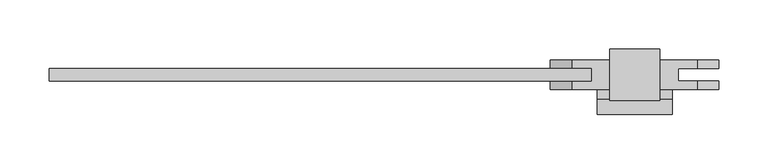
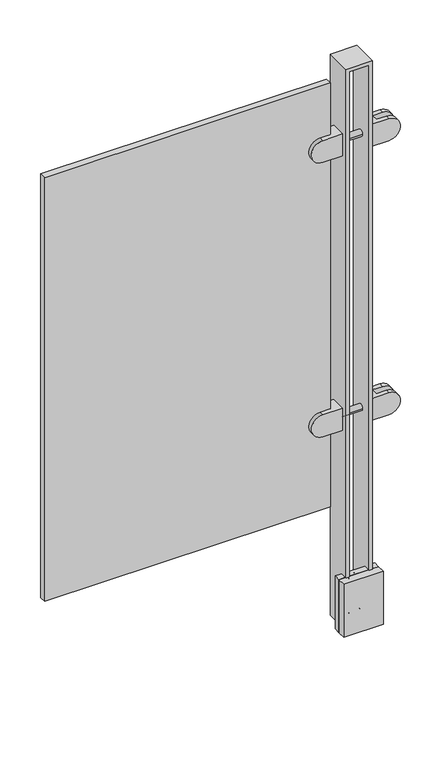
"""IFC4 building model written with IfcOpenShell, lengths in millimetres: proxy geometry, LIVERS_ICN - Glass Panel : LIVERS_ICN - Glass Panel."""

from ifc_helpers import new_model, si_unit, point, frame, origin, place, context, project, spatial, polyline, circle_curve, ellipse_curve, trimmed, outline, extrude, faceted_brep, source, transform, mapped, element, save
from ifc_brep_helpers import plane_surface, cylinder_surface, revolved_surface, advanced_brep


def building_element_proxy_6e90fe54(model_context):
    return source(origin(), model_context, "Body", "SolidModel", [
        advanced_brep(
        [(761.5360146, 55.5624457, 313.5369168), (761.5360146, 25.3999457, 313.5369168), (761.5360146, 25.3999457, 269.0869168), (761.5360146, 55.5624457, 269.0869168), (723.3349206, 55.5624457, 269.0869168), (723.3349206, 55.5624457, 313.5369168), (723.3349206, 25.3999457, 269.0869168), (723.3349206, 34.1311957, 269.0869168), (742.6640953, 34.1311957, 269.0869168), (742.6640953, 46.8311957, 269.0869168), (723.3349206, 46.8311957, 269.0869168), (723.3349206, 25.3999457, 313.5369168), (723.3349206, 46.8311957, 313.5369168), (742.6640953, 46.8311957, 313.5369168), (742.6640953, 34.1311957, 313.5369168), (723.3349206, 34.1311957, 313.5369168)],
        [
            (0, 1),
            (1, 2),
            (2, 3),
            (3, 0),
            (3, 4),
            (4, 5, circle_curve(frame((723.3349206, 55.5624457, 291.3119168), z_axis=(0.0, 1.0, 0.0), x_axis=(0.0, 0.0, -1.0)), 22.225)),
            (5, 0),
            (2, 6),
            (6, 7),
            (7, 8),
            (8, 9),
            (9, 10),
            (10, 4),
            (1, 11),
            (11, 6, circle_curve(frame((723.3349206, 25.3999457, 291.3119168), z_axis=(0.0, -1.0, 0.0), x_axis=(0.0, 0.0, -1.0)), 22.225)),
            (5, 12),
            (12, 13),
            (13, 14),
            (14, 15),
            (15, 11),
            (13, 9),
            (8, 14),
            (12, 10, circle_curve(frame((723.3349206, 46.8311957, 291.3119168), z_axis=(0.0, -1.0, 0.0), x_axis=(0.0, 0.0, -1.0)), 22.225)),
            (7, 15, circle_curve(frame((723.3349206, 34.1311957, 291.3119168), z_axis=(0.0, 1.0, 0.0), x_axis=(0.0, 0.0, -1.0)), 22.225)),
        ],
        [
            plane_surface(frame((761.5360146, 55.5624457, 269.0869168), z_axis=(1.0, 0.0, 0.0), x_axis=(0.0, 0.0, 1.0))),
            plane_surface(frame((701.0329338, 55.5624457, 313.5369168), z_axis=(0.0, 1.0, 0.0), x_axis=(1.0, 0.0, 0.0))),
            plane_surface(frame((701.0329338, 55.5624457, 269.0869168), z_axis=(0.0, 0.0, -1.0), x_axis=(1.0, 0.0, 0.0))),
            plane_surface(frame((701.0329338, 25.3999457, 269.0869168), z_axis=(0.0, -1.0, 0.0), x_axis=(1.0, 0.0, 0.0))),
            plane_surface(frame((701.0329338, 25.3999457, 313.5369168), z_axis=(0.0, 0.0, 1.0), x_axis=(1.0, 0.0, 0.0))),
            plane_surface(frame((742.6640953, 46.8311957, 269.0869168), z_axis=(-1.0, 0.0, 0.0), x_axis=(0.0, 0.0, 1.0))),
            plane_surface(frame((701.0329338, 46.8311957, 313.5369168), z_axis=(0.0, -1.0, 0.0), x_axis=(1.0, 0.0, 0.0))),
            plane_surface(frame((701.0329338, 34.1311957, 269.0869168), z_axis=(0.0, 1.0, 0.0), x_axis=(1.0, 0.0, 0.0))),
            cylinder_surface(frame((723.3349206, 55.5624457, 291.3119168), z_axis=(0.0, 1.0, 0.0), x_axis=(0.0, 0.0, -1.0)), 22.225),
        ],
        [
            (0, [[1, 2, 3, 4]]),
            (1, [[-4, 5, 6, 7]]),
            (2, [[-3, 8, 9, 10, 11, 12, 13, -5]]),
            (3, [[-2, 14, 15, -8]]),
            (4, [[-1, -7, 16, 17, 18, 19, 20, -14]]),
            (5, [[21, -11, 22, -18]]),
            (6, [[-21, -17, 23, -12]]),
            (7, [[-22, -10, 24, -19]]),
            (8, [[-6, -13, -23, -16]]),
            (8, [[-9, -15, -20, -24]]),
        ],
    ),
        advanced_brep(
        [(812.3360146, 55.5624457, 313.5369168), (812.3360146, 55.5624457, 269.0869168), (812.3360146, 25.3999457, 269.0869168), (812.3360146, 25.3999457, 313.5369168), (850.5371085, 55.5624457, 313.5369168), (850.5371085, 55.5624457, 269.0869168), (850.5371085, 46.8311957, 269.0869168), (831.2079338, 46.8311957, 269.0869168), (831.2079338, 34.1311957, 269.0869168), (850.5371085, 34.1311957, 269.0869168), (850.5371085, 25.3999457, 269.0869168), (850.5371085, 25.3999457, 313.5369168), (850.5371085, 34.1311957, 313.5369168), (831.2079338, 34.1311957, 313.5369168), (831.2079338, 46.8311957, 313.5369168), (850.5371085, 46.8311957, 313.5369168)],
        [
            (0, 1),
            (1, 2),
            (2, 3),
            (3, 0),
            (0, 4),
            (4, 5, circle_curve(frame((850.5371085, 55.5624457, 291.3119168), z_axis=(0.0, 1.0, 0.0), x_axis=(0.0, 0.0, -1.0)), 22.225)),
            (5, 1),
            (5, 6),
            (6, 7),
            (7, 8),
            (8, 9),
            (9, 10),
            (10, 2),
            (10, 11, circle_curve(frame((850.5371085, 25.3999457, 291.3119168), z_axis=(0.0, -1.0, 0.0), x_axis=(0.0, 0.0, -1.0)), 22.225)),
            (11, 3),
            (11, 12),
            (12, 13),
            (13, 14),
            (14, 15),
            (15, 4),
            (13, 8),
            (7, 14),
            (6, 15, circle_curve(frame((850.5371085, 46.8311957, 291.3119168), z_axis=(0.0, -1.0, 0.0), x_axis=(0.0, 0.0, -1.0)), 22.225)),
            (12, 9, circle_curve(frame((850.5371085, 34.1311957, 291.3119168), z_axis=(0.0, 1.0, 0.0), x_axis=(0.0, 0.0, -1.0)), 22.225)),
        ],
        [
            plane_surface(frame((812.3360146, 55.5624457, 269.0869168), z_axis=(-1.0, 0.0, 0.0), x_axis=(0.0, 0.0, 1.0))),
            plane_surface(frame((872.8390953, 55.5624457, 313.5369168), z_axis=(0.0, 1.0, 0.0), x_axis=(-1.0, 0.0, 0.0))),
            plane_surface(frame((872.8390953, 55.5624457, 269.0869168), z_axis=(0.0, 0.0, -1.0), x_axis=(-1.0, 0.0, 0.0))),
            plane_surface(frame((872.8390953, 25.3999457, 269.0869168), z_axis=(0.0, -1.0, 0.0), x_axis=(-1.0, 0.0, 0.0))),
            plane_surface(frame((872.8390953, 25.3999457, 313.5369168), z_axis=(0.0, 0.0, 1.0), x_axis=(-1.0, 0.0, 0.0))),
            plane_surface(frame((831.2079338, 46.8311957, 269.0869168), z_axis=(1.0, 0.0, 0.0), x_axis=(0.0, 0.0, 1.0))),
            plane_surface(frame((872.8390953, 46.8311957, 313.5369168), z_axis=(0.0, -1.0, 0.0), x_axis=(-1.0, 0.0, 0.0))),
            plane_surface(frame((872.8390953, 34.1311957, 269.0869168), z_axis=(0.0, 1.0, 0.0), x_axis=(-1.0, 0.0, 0.0))),
            cylinder_surface(frame((850.5371085, 55.5624457, 291.3119168), z_axis=(0.0, 1.0, 0.0), x_axis=(0.0, 0.0, -1.0)), 22.225),
        ],
        [
            (0, [[1, 2, 3, 4]]),
            (1, [[5, 6, 7, -1]]),
            (2, [[-7, 8, 9, 10, 11, 12, 13, -2]]),
            (3, [[-13, 14, 15, -3]]),
            (4, [[-15, 16, 17, 18, 19, 20, -5, -4]]),
            (5, [[-18, 21, -10, 22]]),
            (6, [[-9, 23, -19, -22]]),
            (7, [[-17, 24, -11, -21]]),
            (8, [[-20, -23, -8, -6]]),
            (8, [[-24, -16, -14, -12]]),
        ],
    ),
        advanced_brep(
        [(761.5360146, 55.5624457, 872.3369168), (761.5360146, 25.3999457, 872.3369168), (761.5360146, 25.3999457, 827.8869168), (761.5360146, 55.5624457, 827.8869168), (723.3349206, 55.5624457, 827.8869168), (723.3349206, 55.5624457, 872.3369168), (723.3349206, 25.3999457, 827.8869168), (723.3349206, 34.1311957, 827.8869168), (742.6640953, 34.1311957, 827.8869168), (742.6640953, 46.8311957, 827.8869168), (723.3349206, 46.8311957, 827.8869168), (723.3349206, 25.3999457, 872.3369168), (723.3349206, 46.8311957, 872.3369168), (742.6640953, 46.8311957, 872.3369168), (742.6640953, 34.1311957, 872.3369168), (723.3349206, 34.1311957, 872.3369168)],
        [
            (0, 1),
            (1, 2),
            (2, 3),
            (3, 0),
            (3, 4),
            (4, 5, circle_curve(frame((723.3349206, 55.5624457, 850.1119168), z_axis=(0.0, 1.0, 0.0), x_axis=(0.0, 0.0, -1.0)), 22.225)),
            (5, 0),
            (2, 6),
            (6, 7),
            (7, 8),
            (8, 9),
            (9, 10),
            (10, 4),
            (1, 11),
            (11, 6, circle_curve(frame((723.3349206, 25.3999457, 850.1119168), z_axis=(0.0, -1.0, 0.0), x_axis=(0.0, 0.0, -1.0)), 22.225)),
            (5, 12),
            (12, 13),
            (13, 14),
            (14, 15),
            (15, 11),
            (13, 9),
            (8, 14),
            (12, 10, circle_curve(frame((723.3349206, 46.8311957, 850.1119168), z_axis=(0.0, -1.0, 0.0), x_axis=(0.0, 0.0, -1.0)), 22.225)),
            (7, 15, circle_curve(frame((723.3349206, 34.1311957, 850.1119168), z_axis=(0.0, 1.0, 0.0), x_axis=(0.0, 0.0, -1.0)), 22.225)),
        ],
        [
            plane_surface(frame((761.5360146, 55.5624457, 827.8869168), z_axis=(1.0, 0.0, 0.0), x_axis=(0.0, 0.0, 1.0))),
            plane_surface(frame((701.0329338, 55.5624457, 872.3369168), z_axis=(0.0, 1.0, 0.0), x_axis=(1.0, 0.0, 0.0))),
            plane_surface(frame((701.0329338, 55.5624457, 827.8869168), z_axis=(0.0, 0.0, -1.0), x_axis=(1.0, 0.0, 0.0))),
            plane_surface(frame((701.0329338, 25.3999457, 827.8869168), z_axis=(0.0, -1.0, 0.0), x_axis=(1.0, 0.0, 0.0))),
            plane_surface(frame((701.0329338, 25.3999457, 872.3369168), z_axis=(0.0, 0.0, 1.0), x_axis=(1.0, 0.0, 0.0))),
            plane_surface(frame((742.6640953, 46.8311957, 827.8869168), z_axis=(-1.0, 0.0, 0.0), x_axis=(0.0, 0.0, 1.0))),
            plane_surface(frame((701.0329338, 46.8311957, 872.3369168), z_axis=(0.0, -1.0, 0.0), x_axis=(1.0, 0.0, 0.0))),
            plane_surface(frame((701.0329338, 34.1311957, 827.8869168), z_axis=(0.0, 1.0, 0.0), x_axis=(1.0, 0.0, 0.0))),
            cylinder_surface(frame((723.3349206, 55.5624457, 850.1119168), z_axis=(0.0, 1.0, 0.0), x_axis=(0.0, 0.0, -1.0)), 22.225),
        ],
        [
            (0, [[1, 2, 3, 4]]),
            (1, [[-4, 5, 6, 7]]),
            (2, [[-3, 8, 9, 10, 11, 12, 13, -5]]),
            (3, [[-2, 14, 15, -8]]),
            (4, [[-1, -7, 16, 17, 18, 19, 20, -14]]),
            (5, [[21, -11, 22, -18]]),
            (6, [[-21, -17, 23, -12]]),
            (7, [[-22, -10, 24, -19]]),
            (8, [[-6, -13, -23, -16]]),
            (8, [[-9, -15, -20, -24]]),
        ],
    ),
        advanced_brep(
        [(812.3360146, 55.5624457, 872.3369168), (812.3360146, 55.5624457, 827.8869168), (812.3360146, 25.3999457, 827.8869168), (812.3360146, 25.3999457, 872.3369168), (850.5371085, 55.5624457, 872.3369168), (850.5371085, 55.5624457, 827.8869168), (850.5371085, 46.8311957, 827.8869168), (831.2079338, 46.8311957, 827.8869168), (831.2079338, 34.1311957, 827.8869168), (850.5371085, 34.1311957, 827.8869168), (850.5371085, 25.3999457, 827.8869168), (850.5371085, 25.3999457, 872.3369168), (850.5371085, 34.1311957, 872.3369168), (831.2079338, 34.1311957, 872.3369168), (831.2079338, 46.8311957, 872.3369168), (850.5371085, 46.8311957, 872.3369168)],
        [
            (0, 1),
            (1, 2),
            (2, 3),
            (3, 0),
            (0, 4),
            (4, 5, circle_curve(frame((850.5371085, 55.5624457, 850.1119168), z_axis=(0.0, 1.0, 0.0), x_axis=(0.0, 0.0, -1.0)), 22.225)),
            (5, 1),
            (5, 6),
            (6, 7),
            (7, 8),
            (8, 9),
            (9, 10),
            (10, 2),
            (10, 11, circle_curve(frame((850.5371085, 25.3999457, 850.1119168), z_axis=(0.0, -1.0, 0.0), x_axis=(0.0, 0.0, -1.0)), 22.225)),
            (11, 3),
            (11, 12),
            (12, 13),
            (13, 14),
            (14, 15),
            (15, 4),
            (13, 8),
            (7, 14),
            (6, 15, circle_curve(frame((850.5371085, 46.8311957, 850.1119168), z_axis=(0.0, -1.0, 0.0), x_axis=(0.0, 0.0, -1.0)), 22.225)),
            (12, 9, circle_curve(frame((850.5371085, 34.1311957, 850.1119168), z_axis=(0.0, 1.0, 0.0), x_axis=(0.0, 0.0, -1.0)), 22.225)),
        ],
        [
            plane_surface(frame((812.3360146, 55.5624457, 827.8869168), z_axis=(-1.0, 0.0, 0.0), x_axis=(0.0, 0.0, 1.0))),
            plane_surface(frame((872.8390953, 55.5624457, 872.3369168), z_axis=(0.0, 1.0, 0.0), x_axis=(-1.0, 0.0, 0.0))),
            plane_surface(frame((872.8390953, 55.5624457, 827.8869168), z_axis=(0.0, 0.0, -1.0), x_axis=(-1.0, 0.0, 0.0))),
            plane_surface(frame((872.8390953, 25.3999457, 827.8869168), z_axis=(0.0, -1.0, 0.0), x_axis=(-1.0, 0.0, 0.0))),
            plane_surface(frame((872.8390953, 25.3999457, 872.3369168), z_axis=(0.0, 0.0, 1.0), x_axis=(-1.0, 0.0, 0.0))),
            plane_surface(frame((831.2079338, 46.8311957, 827.8869168), z_axis=(1.0, 0.0, 0.0), x_axis=(0.0, 0.0, 1.0))),
            plane_surface(frame((872.8390953, 46.8311957, 872.3369168), z_axis=(0.0, -1.0, 0.0), x_axis=(-1.0, 0.0, 0.0))),
            plane_surface(frame((872.8390953, 34.1311957, 827.8869168), z_axis=(0.0, 1.0, 0.0), x_axis=(-1.0, 0.0, 0.0))),
            cylinder_surface(frame((850.5371085, 55.5624457, 850.1119168), z_axis=(0.0, 1.0, 0.0), x_axis=(0.0, 0.0, -1.0)), 22.225),
        ],
        [
            (0, [[1, 2, 3, 4]]),
            (1, [[5, 6, 7, -1]]),
            (2, [[-7, 8, 9, 10, 11, 12, 13, -2]]),
            (3, [[-13, 14, 15, -3]]),
            (4, [[-15, 16, 17, 18, 19, 20, -5, -4]]),
            (5, [[-18, 21, -10, 22]]),
            (6, [[-9, 23, -19, -22]]),
            (7, [[-17, 24, -11, -21]]),
            (8, [[-20, -23, -8, -6]]),
            (8, [[-24, -16, -14, -12]]),
        ],
    ),
        advanced_brep(
        [(786.9360146, 28.575, -125.3541166), (786.9360146, 29.7562407, -125.3541166), (786.9360146, 29.7562407, -103.1291055), (786.9360146, 28.575, -103.1291055), (786.9360146, 28.575, -114.2416111), (786.9360146, 32.325, -119.8541166), (786.9360146, 30.8816229, -114.2416111), (786.9360146, 32.325, -108.6291055), (786.9360146, 34.8740117, -119.8541166), (786.9360146, 34.8740117, -108.6291055), (786.9360146, 33.8500285, -122.802123), (786.9360146, 33.8500285, -105.6810991), (786.9360146, 31.8562692, -124.5603989), (786.9360146, 31.8562692, -103.9228232)],
        [
            (0, 1),
            (1, 2, circle_curve(frame((786.9360146, 29.7562407, -114.2416111), z_axis=(0.0, -1.0, 0.0), x_axis=(0.0, 0.0, 1.0)), 11.1125056)),
            (2, 3),
            (3, 0, circle_curve(frame((786.9360146, 28.575, -114.2416111), z_axis=(0.0, 1.0, 0.0), x_axis=(0.0, 0.0, 1.0)), 11.1125056)),
            (2, 1, circle_curve(frame((786.9360146, 29.7562407, -114.2416111), z_axis=(0.0, -1.0, 0.0), x_axis=(0.0, 0.0, 1.0)), 11.1125056)),
            (0, 3, circle_curve(frame((786.9360146, 28.575, -114.2416111), z_axis=(0.0, 1.0, 0.0), x_axis=(0.0, 0.0, 1.0)), 11.1125056)),
            (4, 0),
            (3, 4),
            (5, 6),
            (6, 7),
            (7, 5, circle_curve(frame((786.9360146, 32.325, -114.2416111), z_axis=(0.0, 1.0, 0.0), x_axis=(0.0, 0.0, 1.0)), 5.6125056)),
            (5, 7, circle_curve(frame((786.9360146, 32.325, -114.2416111), z_axis=(0.0, 1.0, 0.0), x_axis=(0.0, 0.0, 1.0)), 5.6125056)),
            (8, 5),
            (7, 9),
            (9, 8, circle_curve(frame((786.9360146, 34.8740117, -114.2416111), z_axis=(0.0, 1.0, 0.0), x_axis=(0.0, 0.0, 1.0)), 5.6125056)),
            (8, 9, circle_curve(frame((786.9360146, 34.8740117, -114.2416111), z_axis=(0.0, 1.0, 0.0), x_axis=(0.0, 0.0, 1.0)), 5.6125056)),
            (10, 8, circle_curve(frame((786.9360146, 31.75, -120.4208407), z_axis=(1.0, 0.0, 0.0), x_axis=(0.0, -1.0, 0.0)), 3.175)),
            (9, 11, circle_curve(frame((786.9360146, 31.75, -108.0623814), z_axis=(1.0, 0.0, 0.0), x_axis=(0.0, -1.0, 0.0)), 3.175)),
            (11, 10, circle_curve(frame((786.9360146, 33.8500285, -114.2416111), z_axis=(0.0, 1.0, 0.0), x_axis=(0.0, 0.0, 1.0)), 8.560512)),
            (10, 11, circle_curve(frame((786.9360146, 33.8500285, -114.2416111), z_axis=(0.0, 1.0, 0.0), x_axis=(0.0, 0.0, 1.0)), 8.560512)),
            (12, 10),
            (11, 13),
            (13, 12, circle_curve(frame((786.9360146, 31.8562692, -114.2416111), z_axis=(0.0, 1.0, 0.0), x_axis=(0.0, 0.0, 1.0)), 10.3187879)),
            (12, 13, circle_curve(frame((786.9360146, 31.8562692, -114.2416111), z_axis=(0.0, 1.0, 0.0), x_axis=(0.0, 0.0, 1.0)), 10.3187879)),
            (1, 12, circle_curve(frame((786.9360146, 29.7562407, -122.1791166), z_axis=(1.0, 0.0, 0.0), x_axis=(0.0, -1.0, 0.0)), 3.175)),
            (13, 2, circle_curve(frame((786.9360146, 29.7562407, -106.3041055), z_axis=(1.0, 0.0, 0.0), x_axis=(0.0, -1.0, 0.0)), 3.175)),
        ],
        [
            cylinder_surface(frame((786.9360146, 28.575, -114.2416111), z_axis=(0.0, -1.0, 0.0), x_axis=(0.0, 0.0, 1.0)), 11.1125056),
            plane_surface(frame((786.9360146, 28.575, -114.2416111), z_axis=(0.0, -1.0, 0.0), x_axis=(0.0, 0.0, 1.0))),
            revolved_surface(polyline([(786.9360146, 30.8816229, -114.2416111), (786.9360146, 32.325, -108.6291055)]), (786.9360146, 28.575, -114.2416111), (0.0, -1.0, 0.0)),
            revolved_surface(polyline([(786.9360146, 32.325, -108.6291055), (786.9360146, 34.8740117, -108.6291055)]), (786.9360146, 28.575, -114.2416111), (0.0, -1.0, 0.0)),
            revolved_surface(trimmed(ellipse_curve(frame((786.9360146, 31.75, -108.0623814), z_axis=(1.0, 0.0, 0.0), x_axis=(0.0, -1.0, 0.0)), 3.175, 3.175), [point((786.9360146, 34.8740117, -108.6291055))], [point((786.9360146, 33.8500285, -105.6810991))], True, "CARTESIAN"), (786.9360146, 28.575, -114.2416111), (0.0, -1.0, 0.0)),
            revolved_surface(polyline([(786.9360146, 33.8500285, -105.6810991), (786.9360146, 31.8562692, -103.9228232)]), (786.9360146, 28.575, -114.2416111), (0.0, -1.0, 0.0)),
            revolved_surface(trimmed(ellipse_curve(frame((786.9360146, 29.7562407, -106.3041055), z_axis=(1.0, 0.0, 0.0), x_axis=(0.0, -1.0, 0.0)), 3.175, 3.175), [point((786.9360146, 31.8562692, -103.9228232))], [point((786.9360146, 29.7562407, -103.1291055))], True, "CARTESIAN"), (786.9360146, 28.575, -114.2416111), (0.0, -1.0, 0.0)),
        ],
        [
            (0, [[1, 2, 3, 4]]),
            (0, [[-3, 5, -1, 6]]),
            (1, [[7, -4, 8]]),
            (1, [[-8, -6, -7]]),
            (2, [[9, 10, 11]]),
            (2, [[-10, -9, 12]]),
            (3, [[13, -11, 14, 15]]),
            (3, [[-14, -12, -13, 16]]),
            (4, [[17, -15, 18, 19]]),
            (4, [[-18, -16, -17, 20]]),
            (5, [[21, -19, 22, 23]]),
            (5, [[-22, -20, -21, 24]]),
            (6, [[25, -23, 26, -2]]),
            (6, [[-26, -24, -25, -5]]),
        ],
    ),
        advanced_brep(
        [(786.9360146, 28.575, -55.5041166), (786.9360146, 29.7562407, -55.5041166), (786.9360146, 29.7562407, -33.2791055), (786.9360146, 28.575, -33.2791055), (786.9360146, 28.575, -44.3916111), (786.9360146, 33.8500285, -52.952123), (786.9360146, 34.8740117, -50.0041166), (786.9360146, 34.8740117, -38.7791055), (786.9360146, 33.8500285, -35.8310991), (786.9360146, 31.8562692, -54.7103989), (786.9360146, 31.8562692, -34.0728232), (786.9360146, 32.325, -50.0041166), (786.9360146, 30.8816229, -44.3916111), (786.9360146, 32.325, -38.7791055)],
        [
            (0, 1),
            (1, 2, circle_curve(frame((786.9360146, 29.7562407, -44.3916111), z_axis=(0.0, -1.0, 0.0), x_axis=(0.0, 0.0, 1.0)), 11.1125056)),
            (2, 3),
            (3, 0, circle_curve(frame((786.9360146, 28.575, -44.3916111), z_axis=(0.0, 1.0, 0.0), x_axis=(0.0, 0.0, 1.0)), 11.1125056)),
            (2, 1, circle_curve(frame((786.9360146, 29.7562407, -44.3916111), z_axis=(0.0, -1.0, 0.0), x_axis=(0.0, 0.0, 1.0)), 11.1125056)),
            (0, 3, circle_curve(frame((786.9360146, 28.575, -44.3916111), z_axis=(0.0, 1.0, 0.0), x_axis=(0.0, 0.0, 1.0)), 11.1125056)),
            (4, 0),
            (3, 4),
            (5, 6, circle_curve(frame((786.9360146, 31.75, -50.5708407), z_axis=(1.0, 0.0, 0.0), x_axis=(0.0, -1.0, 0.0)), 3.175)),
            (6, 7, circle_curve(frame((786.9360146, 34.8740117, -44.3916111), z_axis=(0.0, -1.0, 0.0), x_axis=(0.0, 0.0, 1.0)), 5.6125056)),
            (7, 8, circle_curve(frame((786.9360146, 31.75, -38.2123814), z_axis=(1.0, 0.0, 0.0), x_axis=(0.0, -1.0, 0.0)), 3.175)),
            (8, 5, circle_curve(frame((786.9360146, 33.8500285, -44.3916111), z_axis=(0.0, 1.0, 0.0), x_axis=(0.0, 0.0, 1.0)), 8.560512)),
            (7, 6, circle_curve(frame((786.9360146, 34.8740117, -44.3916111), z_axis=(0.0, -1.0, 0.0), x_axis=(0.0, 0.0, 1.0)), 5.6125056)),
            (5, 8, circle_curve(frame((786.9360146, 33.8500285, -44.3916111), z_axis=(0.0, 1.0, 0.0), x_axis=(0.0, 0.0, 1.0)), 8.560512)),
            (9, 5),
            (8, 10),
            (10, 9, circle_curve(frame((786.9360146, 31.8562692, -44.3916111), z_axis=(0.0, 1.0, 0.0), x_axis=(0.0, 0.0, 1.0)), 10.3187879)),
            (9, 10, circle_curve(frame((786.9360146, 31.8562692, -44.3916111), z_axis=(0.0, 1.0, 0.0), x_axis=(0.0, 0.0, 1.0)), 10.3187879)),
            (1, 9, circle_curve(frame((786.9360146, 29.7562407, -52.3291166), z_axis=(1.0, 0.0, 0.0), x_axis=(0.0, -1.0, 0.0)), 3.175)),
            (10, 2, circle_curve(frame((786.9360146, 29.7562407, -36.4541055), z_axis=(1.0, 0.0, 0.0), x_axis=(0.0, -1.0, 0.0)), 3.175)),
            (11, 12),
            (12, 13),
            (13, 11, circle_curve(frame((786.9360146, 32.325, -44.3916111), z_axis=(0.0, 1.0, 0.0), x_axis=(0.0, 0.0, 1.0)), 5.6125056)),
            (11, 13, circle_curve(frame((786.9360146, 32.325, -44.3916111), z_axis=(0.0, 1.0, 0.0), x_axis=(0.0, 0.0, 1.0)), 5.6125056)),
            (6, 11),
            (13, 7),
        ],
        [
            cylinder_surface(frame((786.9360146, 28.575, -44.3916111), z_axis=(0.0, -1.0, 0.0), x_axis=(0.0, 0.0, 1.0)), 11.1125056),
            plane_surface(frame((786.9360146, 28.575, -44.3916111), z_axis=(0.0, -1.0, 0.0), x_axis=(0.0, 0.0, 1.0))),
            revolved_surface(trimmed(ellipse_curve(frame((786.9360146, 31.75, -38.2123814), z_axis=(1.0, 0.0, 0.0), x_axis=(0.0, -1.0, 0.0)), 3.175, 3.175), [point((786.9360146, 34.8740117, -38.7791055))], [point((786.9360146, 33.8500285, -35.8310991))], True, "CARTESIAN"), (786.9360146, 28.575, -44.3916111), (0.0, -1.0, 0.0)),
            revolved_surface(polyline([(786.9360146, 33.8500285, -35.8310991), (786.9360146, 31.8562692, -34.0728232)]), (786.9360146, 28.575, -44.3916111), (0.0, -1.0, 0.0)),
            revolved_surface(trimmed(ellipse_curve(frame((786.9360146, 29.7562407, -36.4541055), z_axis=(1.0, 0.0, 0.0), x_axis=(0.0, -1.0, 0.0)), 3.175, 3.175), [point((786.9360146, 31.8562692, -34.0728232))], [point((786.9360146, 29.7562407, -33.2791055))], True, "CARTESIAN"), (786.9360146, 28.575, -44.3916111), (0.0, -1.0, 0.0)),
            revolved_surface(polyline([(786.9360146, 30.8816229, -44.3916111), (786.9360146, 32.325, -38.7791055)]), (786.9360146, 28.575, -44.3916111), (0.0, -1.0, 0.0)),
            revolved_surface(polyline([(786.9360146, 32.325, -38.7791055), (786.9360146, 34.8740117, -38.7791055)]), (786.9360146, 28.575, -44.3916111), (0.0, -1.0, 0.0)),
        ],
        [
            (0, [[1, 2, 3, 4]]),
            (0, [[-3, 5, -1, 6]]),
            (1, [[7, -4, 8]]),
            (1, [[-8, -6, -7]]),
            (2, [[9, 10, 11, 12]]),
            (2, [[-11, 13, -9, 14]]),
            (3, [[15, -12, 16, 17]]),
            (3, [[-16, -14, -15, 18]]),
            (4, [[19, -17, 20, -2]]),
            (4, [[-20, -18, -19, -5]]),
            (5, [[21, 22, 23]]),
            (5, [[-22, -21, 24]]),
            (6, [[25, -23, 26, -10]]),
            (6, [[-26, -24, -25, -13]]),
        ],
    ),
        faceted_brep([(812.3360146, 14.2874305, 1010.2680522), (812.3360146, 14.2874305, -133.2916111), (812.3360146, 15.875, -133.2916111), (812.3360146, 15.875, -25.3416111), (812.3360146, 28.575, -25.3416111), (812.3360146, 28.575, -133.2916111), (812.3360146, 66.6749609, -133.2916111), (812.3360146, 66.6749609, 1010.2680522), (805.9860146, 66.6749609, -133.2916111), (805.9860146, 28.575, -133.2916111), (805.9860146, 28.575, -25.3416111), (805.9860146, 15.875, -25.3416111), (805.9860146, 15.875, -133.2916111), (805.9860146, 14.2874305, -133.2916111), (805.9860146, 14.2874305, 1003.9180522), (805.9860146, 66.6749609, 1003.9180522), (748.8360146, 28.575, -133.2916111), (761.5360146, 28.575, -133.2916111), (761.5360146, 66.6749609, -133.2916111), (767.8860146, 66.6749609, -133.2916111), (767.8860146, 28.575, -133.2916111), (825.0360146, 28.575, -133.2916111), (825.0360146, 15.875, -133.2916111), (767.8860146, 15.875, -133.2916111), (767.8860146, 14.2874305, -133.2916111), (761.5360146, 14.2874305, -133.2916111), (761.5360146, 15.875, -133.2916111), (748.8360146, 15.875, -133.2916111), (761.5360146, 14.2874305, 1010.2680522), (767.8860146, 14.2874305, 1003.9180522), (761.5360146, 66.6749609, 1010.2680522), (767.8860146, 66.6749609, 1003.9180522), (767.8860146, 15.875, -25.3416111), (767.8860146, 28.575, -25.3416111), (761.5360146, 28.575, -25.3416111), (761.5360146, 15.875, -25.3416111), (825.0360146, 28.575, -25.3416111), (748.8360146, 28.575, -25.3416111), (748.8360146, 15.875, -25.3416111), (825.0360146, 15.875, -25.3416111)], [[[0, 1, 2, 3, 4, 5, 6, 7]], [[8, 9, 10, 11, 12, 13, 14, 15]], [[16, 17, 18, 19, 20, 9, 8, 6, 5, 21, 22, 2, 1, 13, 12, 23, 24, 25, 26, 27]], [[1, 0, 28, 25, 24, 29, 14, 13]], [[7, 30, 28, 0]], [[8, 15, 31, 19, 18, 30, 7, 6]], [[24, 23, 32, 33, 20, 19, 31, 29]], [[14, 29, 31, 15]], [[30, 18, 17, 34, 35, 26, 25, 28]], [[20, 33, 10, 9]], [[21, 5, 4, 36]], [[37, 34, 17, 16]], [[12, 11, 32, 23]], [[27, 26, 35, 38]], [[39, 3, 2, 22]], [[36, 39, 22, 21]], [[33, 32, 11, 10]], [[36, 4, 3, 39]], [[38, 35, 34, 37]], [[16, 27, 38, 37]]]),
        extrude(outline(polyline([(825.0360146, 15.875), (825.0360146, 0.0), (748.8360146, 0.0), (748.8360146, 15.875), (825.0360146, 15.875)])), frame((0.0, 0.0, -133.2916111), z_axis=(0.0, 0.0, 1.0), x_axis=(1.0, 0.0, 0.0)), (0.0, 0.0, 1.0), 107.95),
        advanced_brep(
        [(767.8860146, 41.2749421, 291.3119224), (767.8860146, 47.5989918, 291.3119224), (767.8860146, 34.9508924, 291.3119224), (806.0000008, 47.5989918, 291.3119224), (806.0000008, 41.2749421, 291.3119224), (806.0000008, 34.9508924, 291.3119224)],
        [
            (0, 1),
            (1, 2, circle_curve(frame((767.8860146, 41.2749421, 291.3119224), z_axis=(-1.0, 0.0, 0.0), x_axis=(0.0, -1.0, 0.0)), 6.3240497)),
            (2, 0),
            (2, 1, circle_curve(frame((767.8860146, 41.2749421, 291.3119224), z_axis=(-1.0, 0.0, 0.0), x_axis=(0.0, -1.0, 0.0)), 6.3240497)),
            (3, 4),
            (4, 5),
            (5, 3, circle_curve(frame((806.0000008, 41.2749421, 291.3119224), z_axis=(1.0, 0.0, 0.0), x_axis=(0.0, -1.0, 0.0)), 6.3240497)),
            (3, 5, circle_curve(frame((806.0000008, 41.2749421, 291.3119224), z_axis=(1.0, 0.0, 0.0), x_axis=(0.0, -1.0, 0.0)), 6.3240497)),
            (1, 3),
            (5, 2),
        ],
        [
            plane_surface(frame((767.8860146, 41.2749421, 291.3119224), z_axis=(-1.0, 0.0, 0.0), x_axis=(0.0, -1.0, 0.0))),
            plane_surface(frame((806.0000008, 41.2749421, 291.3119224), z_axis=(1.0, 0.0, 0.0), x_axis=(0.0, -1.0, 0.0))),
            cylinder_surface(frame((767.8860146, 41.2749421, 291.3119224), z_axis=(-1.0, 0.0, 0.0), x_axis=(0.0, -1.0, 0.0)), 6.3240497),
        ],
        [
            (0, [[1, 2, 3]]),
            (0, [[-3, 4, -1]]),
            (1, [[5, 6, 7]]),
            (1, [[-6, -5, 8]]),
            (2, [[9, -7, 10, -2]]),
            (2, [[-10, -8, -9, -4]]),
        ],
    ),
        advanced_brep(
        [(767.8860146, 41.2749421, 850.1119224), (767.8860146, 47.5989918, 850.1119224), (767.8860146, 34.9508924, 850.1119224), (806.0000008, 47.5989918, 850.1119224), (806.0000008, 41.2749421, 850.1119224), (806.0000008, 34.9508924, 850.1119224)],
        [
            (0, 1),
            (1, 2, circle_curve(frame((767.8860146, 41.2749421, 850.1119224), z_axis=(-1.0, 0.0, 0.0), x_axis=(0.0, -1.0, 0.0)), 6.3240497)),
            (2, 0),
            (2, 1, circle_curve(frame((767.8860146, 41.2749421, 850.1119224), z_axis=(-1.0, 0.0, 0.0), x_axis=(0.0, -1.0, 0.0)), 6.3240497)),
            (3, 4),
            (4, 5),
            (5, 3, circle_curve(frame((806.0000008, 41.2749421, 850.1119224), z_axis=(1.0, 0.0, 0.0), x_axis=(0.0, -1.0, 0.0)), 6.3240497)),
            (3, 5, circle_curve(frame((806.0000008, 41.2749421, 850.1119224), z_axis=(1.0, 0.0, 0.0), x_axis=(0.0, -1.0, 0.0)), 6.3240497)),
            (1, 3),
            (5, 2),
        ],
        [
            plane_surface(frame((767.8860146, 41.2749421, 850.1119224), z_axis=(-1.0, 0.0, 0.0), x_axis=(0.0, -1.0, 0.0))),
            plane_surface(frame((806.0000008, 41.2749421, 850.1119224), z_axis=(1.0, 0.0, 0.0), x_axis=(0.0, -1.0, 0.0))),
            cylinder_surface(frame((767.8860146, 41.2749421, 850.1119224), z_axis=(-1.0, 0.0, 0.0), x_axis=(0.0, -1.0, 0.0)), 6.3240497),
        ],
        [
            (0, [[1, 2, 3]]),
            (0, [[-3, 4, -1]]),
            (1, [[5, 6, 7]]),
            (1, [[-6, -5, 8]]),
            (2, [[9, -7, 10, -2]]),
            (2, [[-10, -8, -9, -4]]),
        ],
    ),
        extrude(outline(polyline([(742.6640953, 34.1309994), (191.4739869, 34.1309994), (191.4739869, 46.8311957), (742.6640953, 46.8311957), (742.6640953, 34.1309994)])), frame((0.0, 0.0, 114.3), z_axis=(0.0, 0.0, 1.0), x_axis=(1.0, 0.0, 0.0)), (0.0, 0.0, 1.0), 863.6),
    ])


if __name__ == "__main__":
    model = new_model("IFC4")
    model_context = context("Model", 3, world=origin())
    ifc_project = project(units=[si_unit("LENGTHUNIT", "METRE", prefix="MILLI")], contexts=[model_context])
    site = spatial("IfcSite", under=ifc_project)
    building = spatial("IfcBuilding", under=site)
    placement = place(None, origin())
    building_element_proxy_shape = building_element_proxy_6e90fe54(model_context)
    element("IfcBuildingElementProxy", 1, Name="LIVERS_ICN - Glass Panel : LIVERS_ICN - Glass Panel", ObjectType="LIVERS_ICN - Glass Panel : LIVERS_ICN - Glass Panel", at=placement, inside=building, context=model_context, shape_type="MappedRepresentation", body=[
        mapped(building_element_proxy_shape, transform((0.0, 0.0, 0.0), x_axis=(1.0, 0.0, 0.0), y_axis=(0.0, 1.0, 0.0), z_axis=(0.0, 0.0, 1.0))),
    ])
    save(model, "model.ifc")
